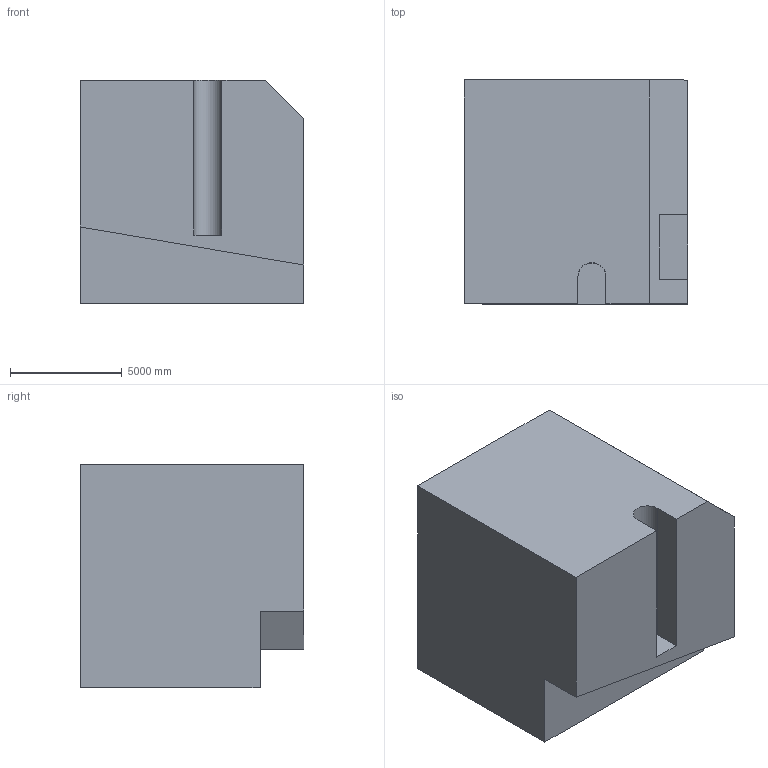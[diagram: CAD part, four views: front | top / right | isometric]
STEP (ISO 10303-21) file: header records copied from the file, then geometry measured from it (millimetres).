
FILE_DESCRIPTION (( 'STEP AP203' ), '1' );
FILE_NAME ('1476.STEP', '2022-08-18T14:42:26', ( 'user' ), ( '' ), 'SwSTEP 2.0', 'SolidWorks 2021', '' );
FILE_SCHEMA (( 'CONFIG_CONTROL_DESIGN' ));
Length unit declared in the file: centimetre
Products named in the file (1): 1476
Bounding box: 10000 x 10000 x 10000 mm (x, y, z)
Volume: 910019920565.8 mm3; surface area: 635007605.7 mm2
Topology: 1 solids, 1 shells, 21 faces, 54 edges, 36 vertices
Faces by surface type: plane 20, cylinder 1
Entity records: 707 total; most frequent: CARTESIAN_POINT 112, ORIENTED_EDGE 108, DIRECTION 100, EDGE_CURVE 54, LINE 52, VECTOR 52, VERTEX_POINT 36, AXIS2_PLACEMENT_3D 24
